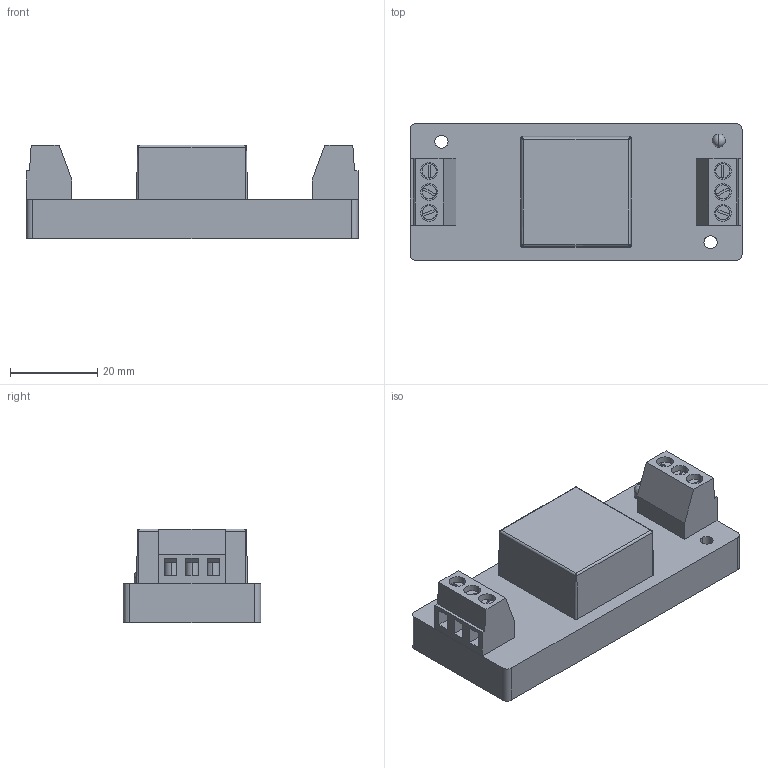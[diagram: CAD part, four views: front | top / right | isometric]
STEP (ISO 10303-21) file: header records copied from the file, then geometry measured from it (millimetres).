
FILE_DESCRIPTION(/* description */ (''),/* implementation_level */ '2;1');
FILE_NAME(/* name */ 'PFD30-XXSXXA3(R)2-(T).stp',/* time_stamp */ '2025-09-09T10:22:21+08:00',/* author */ (''),/* organization */ (''),/* preprocessor_version */ 'ST-DEVELOPER v16',/* originating_system */ 'SIEMENS PLM Software NX 10.0',/* authorisation */ '123');
FILE_SCHEMA (('AUTOMOTIVE_DESIGN { 1 0 10303 214 3 1 1 1 }'));
Length unit declared in the file: millimetre
Products named in the file (1): admi9E78CA83aq1s
Bounding box: 76 x 31.5 x 21.5 mm (x, y, z)
Volume: 32224.6 mm3; surface area: 13071.8 mm2
Topology: 16 solids, 16 shells, 183 faces, 460 edges, 301 vertices
Faces by surface type: plane 111, cylinder 56, sphere 8, bspline 8
Full cylindrical faces by diameter (mm): 1 x12
Entity records: 7589 total; most frequent: CARTESIAN_POINT 2289, DIRECTION 906, ORIENTED_EDGE 832, EDGE_CURVE 416, AXIS2_PLACEMENT_3D 330, VERTEX_POINT 281, LINE 246, VECTOR 246
